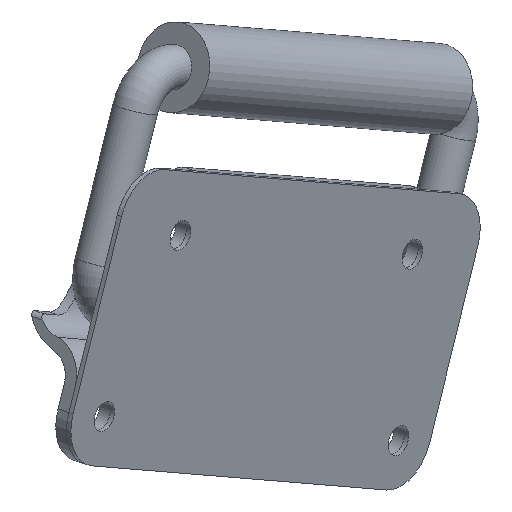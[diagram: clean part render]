
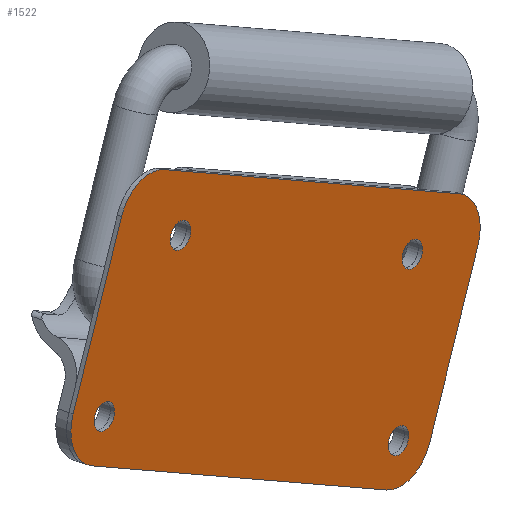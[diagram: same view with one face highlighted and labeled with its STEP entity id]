
A CAD part, isometric view. The second image highlights one B-rep face of the part: STEP entity #1522.
In plain terms, the highlighted planar face has unit normal (0.084, -0.988, 0.132) as drawn and (0, -1, 0) by its records, which use the part's own axes.
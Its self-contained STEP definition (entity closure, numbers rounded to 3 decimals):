
#86=PLANE('',#1690);
#163=LINE('',#3149,#249);
#169=LINE('',#3164,#255);
#171=LINE('',#3182,#257);
#172=LINE('',#3184,#258);
#249=VECTOR('',#2065,85.);
#255=VECTOR('',#2081,85.);
#257=VECTOR('',#2105,36.);
#258=VECTOR('',#2108,36.);
#317=FACE_BOUND('',#523,.T.);
#318=FACE_BOUND('',#524,.T.);
#319=FACE_BOUND('',#525,.T.);
#320=FACE_BOUND('',#526,.T.);
#408=FACE_OUTER_BOUND('',#522,.T.);
#522=EDGE_LOOP('',(#1387,#1388,#1389,#1390,#1391,#1392,#1393,#1394));
#523=EDGE_LOOP('',(#1395));
#524=EDGE_LOOP('',(#1396));
#525=EDGE_LOOP('',(#1397));
#526=EDGE_LOOP('',(#1398));
#606=CIRCLE('',#1663,9.);
#614=CIRCLE('',#1674,9.);
#615=CIRCLE('',#1676,9.);
#616=CIRCLE('',#1679,9.);
#617=CIRCLE('',#1681,2.75);
#618=CIRCLE('',#1683,2.75);
#619=CIRCLE('',#1685,2.75);
#620=CIRCLE('',#1687,2.75);
#741=VERTEX_POINT('',#3120);
#742=VERTEX_POINT('',#3122);
#753=VERTEX_POINT('',#3148);
#754=VERTEX_POINT('',#3152);
#755=VERTEX_POINT('',#3156);
#756=VERTEX_POINT('',#3158);
#757=VERTEX_POINT('',#3162);
#758=VERTEX_POINT('',#3166);
#759=VERTEX_POINT('',#3170);
#760=VERTEX_POINT('',#3173);
#761=VERTEX_POINT('',#3176);
#762=VERTEX_POINT('',#3179);
#945=EDGE_CURVE('',#741,#742,#606,.T.);
#958=EDGE_CURVE('',#742,#753,#163,.T.);
#960=EDGE_CURVE('',#753,#754,#614,.T.);
#963=EDGE_CURVE('',#755,#756,#615,.T.);
#966=EDGE_CURVE('',#757,#755,#169,.T.);
#968=EDGE_CURVE('',#758,#757,#616,.T.);
#969=EDGE_CURVE('',#759,#759,#617,.T.);
#970=EDGE_CURVE('',#760,#760,#618,.T.);
#971=EDGE_CURVE('',#761,#761,#619,.T.);
#972=EDGE_CURVE('',#762,#762,#620,.T.);
#973=EDGE_CURVE('',#754,#758,#171,.T.);
#974=EDGE_CURVE('',#756,#741,#172,.T.);
#1387=ORIENTED_EDGE('',*,*,#945,.F.);
#1388=ORIENTED_EDGE('',*,*,#974,.F.);
#1389=ORIENTED_EDGE('',*,*,#963,.F.);
#1390=ORIENTED_EDGE('',*,*,#966,.F.);
#1391=ORIENTED_EDGE('',*,*,#968,.F.);
#1392=ORIENTED_EDGE('',*,*,#973,.F.);
#1393=ORIENTED_EDGE('',*,*,#960,.F.);
#1394=ORIENTED_EDGE('',*,*,#958,.F.);
#1395=ORIENTED_EDGE('',*,*,#969,.T.);
#1396=ORIENTED_EDGE('',*,*,#970,.T.);
#1397=ORIENTED_EDGE('',*,*,#971,.T.);
#1398=ORIENTED_EDGE('',*,*,#972,.T.);
#1522=ADVANCED_FACE('',(#408,#317,#318,#319,#320),#86,.F.);
#1663=AXIS2_PLACEMENT_3D('',#3123,#2040,#2041);
#1674=AXIS2_PLACEMENT_3D('',#3153,#2069,#2070);
#1676=AXIS2_PLACEMENT_3D('',#3159,#2075,#2076);
#1679=AXIS2_PLACEMENT_3D('',#3168,#2085,#2086);
#1681=AXIS2_PLACEMENT_3D('',#3171,#2089,#2090);
#1683=AXIS2_PLACEMENT_3D('',#3174,#2093,#2094);
#1685=AXIS2_PLACEMENT_3D('',#3177,#2097,#2098);
#1687=AXIS2_PLACEMENT_3D('',#3180,#2101,#2102);
#1690=AXIS2_PLACEMENT_3D('',#3185,#2109,#2110);
#2040=DIRECTION('center_axis',(0.,1.,0.));
#2041=DIRECTION('ref_axis',(-0.707,0.,0.707));
#2065=DIRECTION('',(1.,0.,0.));
#2069=DIRECTION('center_axis',(0.,1.,0.));
#2070=DIRECTION('ref_axis',(0.707,0.,0.707));
#2075=DIRECTION('center_axis',(0.,1.,0.));
#2076=DIRECTION('ref_axis',(-0.707,0.,-0.707));
#2081=DIRECTION('',(-1.,0.,0.));
#2085=DIRECTION('center_axis',(0.,1.,0.));
#2086=DIRECTION('ref_axis',(0.707,0.,-0.707));
#2089=DIRECTION('center_axis',(0.,1.,0.));
#2090=DIRECTION('ref_axis',(1.,0.,0.));
#2093=DIRECTION('center_axis',(0.,1.,0.));
#2094=DIRECTION('ref_axis',(1.,0.,0.));
#2097=DIRECTION('center_axis',(0.,1.,0.));
#2098=DIRECTION('ref_axis',(1.,0.,0.));
#2101=DIRECTION('center_axis',(0.,1.,0.));
#2102=DIRECTION('ref_axis',(1.,0.,0.));
#2105=DIRECTION('',(0.,0.,-1.));
#2108=DIRECTION('',(0.,0.,1.));
#2109=DIRECTION('center_axis',(0.,1.,0.));
#2110=DIRECTION('ref_axis',(0.,0.,1.));
#3120=CARTESIAN_POINT('',(-103.,0.,45.));
#3122=CARTESIAN_POINT('',(-94.,0.,54.));
#3123=CARTESIAN_POINT('Origin',(-94.,0.,45.));
#3148=CARTESIAN_POINT('',(-9.,0.,54.));
#3149=CARTESIAN_POINT('',(-103.,0.,54.));
#3152=CARTESIAN_POINT('',(0.,0.,45.));
#3153=CARTESIAN_POINT('Origin',(-9.,0.,45.));
#3156=CARTESIAN_POINT('',(-94.,0.,0.));
#3158=CARTESIAN_POINT('',(-103.,0.,9.));
#3159=CARTESIAN_POINT('Origin',(-94.,0.,9.));
#3162=CARTESIAN_POINT('',(-9.,0.,0.));
#3164=CARTESIAN_POINT('',(0.,0.,0.));
#3166=CARTESIAN_POINT('',(0.,0.,9.));
#3168=CARTESIAN_POINT('Origin',(-9.,0.,9.));
#3170=CARTESIAN_POINT('',(-87.75,0.,42.5));
#3171=CARTESIAN_POINT('Origin',(-85.,0.,42.5));
#3173=CARTESIAN_POINT('',(-96.75,0.,9.));
#3174=CARTESIAN_POINT('Origin',(-94.,0.,9.));
#3176=CARTESIAN_POINT('',(-11.75,0.,9.));
#3177=CARTESIAN_POINT('Origin',(-9.,0.,9.));
#3179=CARTESIAN_POINT('',(-20.75,0.,42.5));
#3180=CARTESIAN_POINT('Origin',(-18.,0.,42.5));
#3182=CARTESIAN_POINT('',(0.,0.,54.));
#3184=CARTESIAN_POINT('',(-103.,0.,0.));
#3185=CARTESIAN_POINT('Origin',(-51.5,0.,27.));
